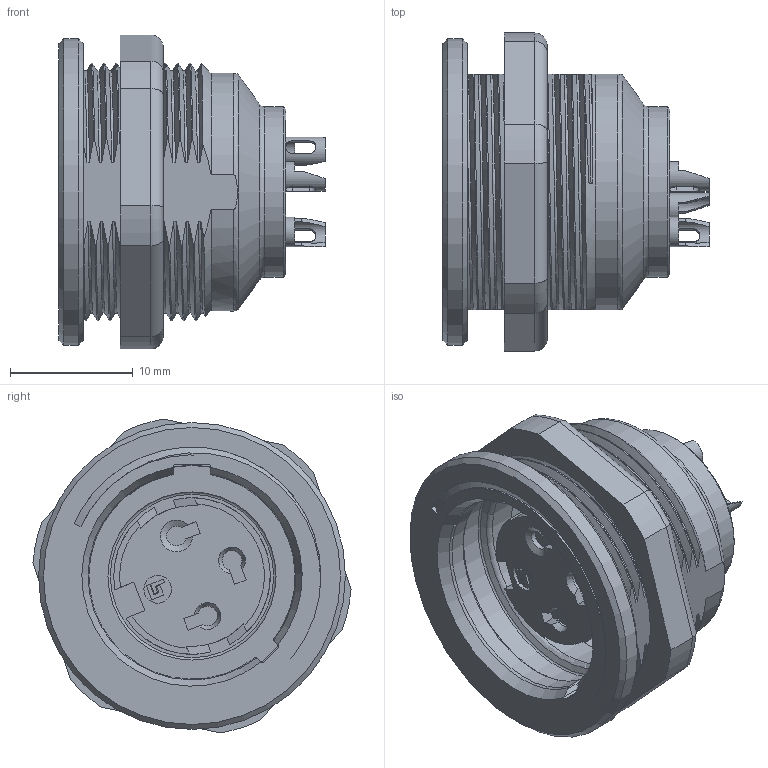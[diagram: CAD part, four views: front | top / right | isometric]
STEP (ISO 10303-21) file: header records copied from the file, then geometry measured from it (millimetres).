
FILE_DESCRIPTION(/* description */ (''),/* implementation_level */ '2;1');
FILE_NAME(/* name */ '09-4808-25-03-001_00-Flanschstecker.stp',/* time_stamp */ '2017-11-10T10:10:13+01:00',/* author */ (''),/* organization */ (''),/* preprocessor_version */ 'ST-DEVELOPER v16',/* originating_system */ 'SIEMENS PLM Software NX 11.0',/* authorisation */ '');
FILE_SCHEMA (('AUTOMOTIVE_DESIGN { 1 0 10303 214 3 1 1 1 }'));
Products named in the file (1): mfur065C7A3F70ir
Bounding box: 21.7 x 25.91 x 25.58 mm (x, y, z)
Volume: 3651.3 mm3; surface area: 5268.1 mm2
Topology: 2 solids, 2 shells, 347 faces, 935 edges, 613 vertices
Faces by surface type: plane 132, cylinder 115, bspline 44, torus 26, cone 18, extrusion 12
Full cylindrical faces by diameter (mm): 1.8 x3, 2.25 x1, 2.4 x3, 12.85 x1, 13.7 x3, 13.9 x1, 15.95 x1, 16.6 x1, 18.4 x1, 19.917 x1, 21.2 x1, 25 x1
Entity records: 48054 total; most frequent: CARTESIAN_POINT 40086, ORIENTED_EDGE 1766, DIRECTION 1368, EDGE_CURVE 883, VERTEX_POINT 597, AXIS2_PLACEMENT_3D 483, EDGE_LOOP 414, VECTOR 402
